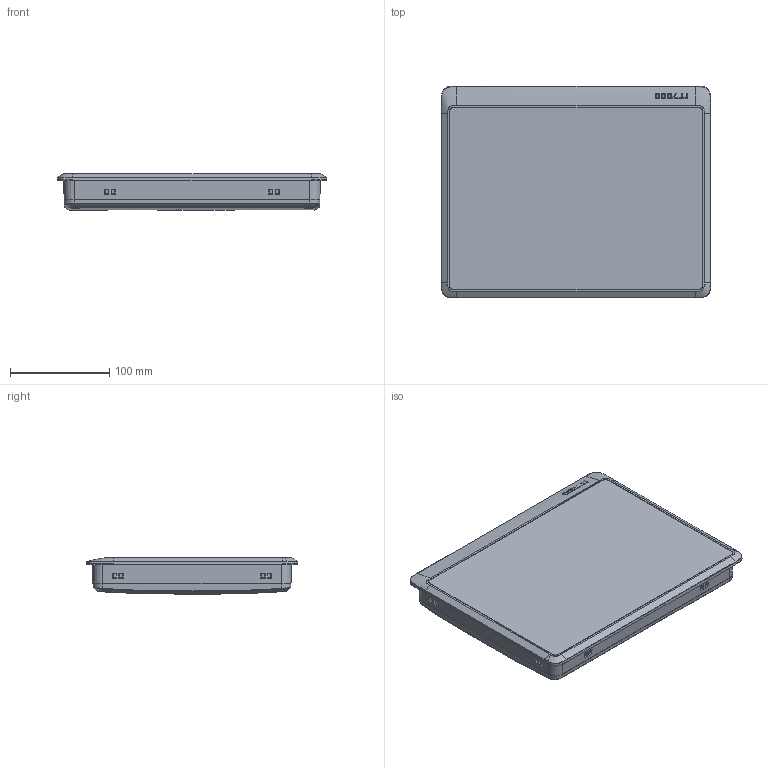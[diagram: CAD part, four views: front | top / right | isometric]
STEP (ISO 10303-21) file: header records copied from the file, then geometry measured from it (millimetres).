
FILE_DESCRIPTION((''),'2;1');
FILE_NAME('000-IT7100E','2020-01-03T',('c2617'),(''),'CREO PARAMETRIC BY PTC INC, 2015290','CREO PARAMETRIC BY PTC INC, 2015290','');
FILE_SCHEMA(('CONFIG_CONTROL_DESIGN'));
Products named in the file (1): 000-IT7100E
Bounding box: 271 x 212.99 x 36.68 mm (x, y, z)
Volume: 1219876.6 mm3; surface area: 326817.2 mm2
Topology: 1 solids, 2 shells, 3647 faces, 10091 edges, 6599 vertices
Faces by surface type: plane 2290, cylinder 527, bspline 444, extrusion 215, cone 129, torus 42
Entity records: 164918 total; most frequent: CARTESIAN_POINT 51779, ORIENTED_EDGE 20174, DIRECTION 15224, EDGE_CURVE 10087, VECTOR 6998, LINE 6783, VERTEX_POINT 6599, AXIS2_PLACEMENT_3D 4113
